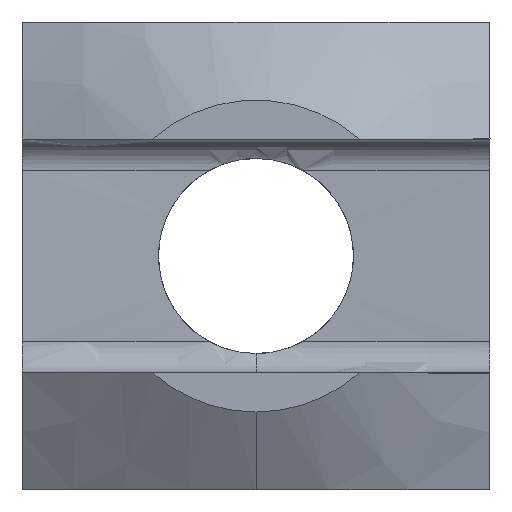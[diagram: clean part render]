
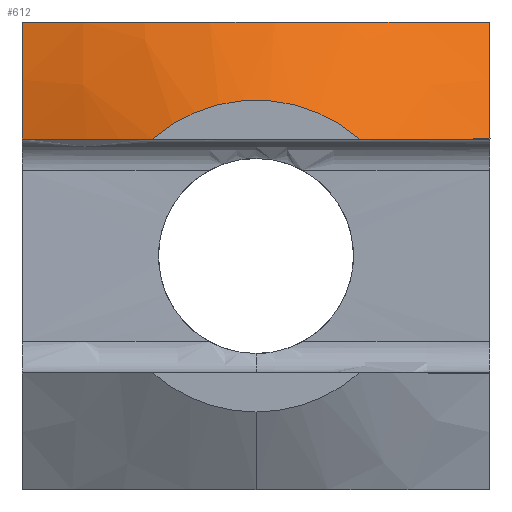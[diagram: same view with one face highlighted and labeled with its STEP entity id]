
A CAD part, left-side view. The second image highlights one B-rep face of the part: STEP entity #612.
In plain terms, the highlighted conical face has half-angle 60 degrees and reference radius 8.512 mm.
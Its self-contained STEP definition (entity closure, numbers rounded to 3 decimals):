
#7 = AXIS2_PLACEMENT_3D ( 'NONE', #701, #42, #627 ) ;
#20 = CARTESIAN_POINT ( 'NONE',  ( -5.436, -6., 3. ) ) ;
#42 = DIRECTION ( 'NONE',  ( 1., 0., 0. ) ) ;
#56 = CARTESIAN_POINT ( 'NONE',  ( -5.136, -4.052, 6. ) ) ;
#60 = CONICAL_SURFACE ( 'NONE', #382, 8.512, 1.047 ) ;
#103 = ORIENTED_EDGE ( 'NONE', *, *, #478, .F. ) ;
#105 = EDGE_CURVE ( 'NONE', #644, #992, #147, .T. ) ;
#108 = CARTESIAN_POINT ( 'NONE',  ( -5.997, 4.9, 3. ) ) ;
#110 = CARTESIAN_POINT ( 'NONE',  ( -6.526, -3.786, 3. ) ) ;
#117 = CARTESIAN_POINT ( 'NONE',  ( -4.41, 6., 6. ) ) ;
#121 = CARTESIAN_POINT ( 'NONE',  ( -4.811, 6., 5.02 ) ) ;
#125 = CARTESIAN_POINT ( 'NONE',  ( -5.549, 2.574, 6. ) ) ;
#137 = DIRECTION ( 'NONE',  ( 0., 0., -1. ) ) ;
#147 = B_SPLINE_CURVE_WITH_KNOTS ( 'NONE', 3,
 ( #1191, #616, #1088, #20 ),
 .UNSPECIFIED., .F., .F.,
 ( 4, 4 ),
 ( 0., 0.003 ),
 .UNSPECIFIED. ) ;
#149 = CARTESIAN_POINT ( 'NONE',  ( -4.794, -5.033, 6. ) ) ;
#170 = VERTEX_POINT ( 'NONE', #907 ) ;
#195 = CARTESIAN_POINT ( 'NONE',  ( -7., 2.646, 3. ) ) ;
#338 = CARTESIAN_POINT ( 'NONE',  ( -5.656, 2.069, 6. ) ) ;
#347 = ORIENTED_EDGE ( 'NONE', *, *, #429, .T. ) ;
#379 = CARTESIAN_POINT ( 'NONE',  ( -7., -2.646, 3. ) ) ;
#382 = AXIS2_PLACEMENT_3D ( 'NONE', #648, #556, #137 ) ;
#429 = EDGE_CURVE ( 'NONE', #170, #880, #837, .T. ) ;
#478 = EDGE_CURVE ( 'NONE', #170, #608, #552, .T. ) ;
#520 = CARTESIAN_POINT ( 'NONE',  ( -5.436, 6., 3. ) ) ;
#522 = CARTESIAN_POINT ( 'NONE',  ( -5.686, -2.048, 6. ) ) ;
#529 = CARTESIAN_POINT ( 'NONE',  ( -4.803, 5.039, 6. ) ) ;
#532 = CARTESIAN_POINT ( 'NONE',  ( -5.171, 6., 4.026 ) ) ;
#552 = B_SPLINE_CURVE_WITH_KNOTS ( 'NONE', 3,
 ( #520, #532, #121, #999 ),
 .UNSPECIFIED., .F., .F.,
 ( 4, 4 ),
 ( 0., 0.003 ),
 .UNSPECIFIED. ) ;
#556 = DIRECTION ( 'NONE',  ( 1., 0., 0. ) ) ;
#557 = B_SPLINE_CURVE_WITH_KNOTS ( 'NONE', 3,
 ( #1081, #1180, #110, #805, #981, #985 ),
 .UNSPECIFIED., .F., .F.,
 ( 4, 2, 4 ),
 ( 0., 0.002, 0.004 ),
 .UNSPECIFIED. ) ;
#608 = VERTEX_POINT ( 'NONE', #736 ) ;
#612 = ADVANCED_FACE ( 'NONE', ( #725 ), #60, .T. ) ;
#616 = CARTESIAN_POINT ( 'NONE',  ( -4.811, -6., 5.02 ) ) ;
#625 = EDGE_LOOP ( 'NONE', ( #347, #855, #681, #657, #977, #103 ) ) ;
#627 = DIRECTION ( 'NONE',  ( 0., 0., -1. ) ) ;
#644 = VERTEX_POINT ( 'NONE', #1216 ) ;
#648 = CARTESIAN_POINT ( 'NONE',  ( -4.395, 0., 0. ) ) ;
#657 = ORIENTED_EDGE ( 'NONE', *, *, #105, .F. ) ;
#681 = ORIENTED_EDGE ( 'NONE', *, *, #991, .T. ) ;
#701 = CARTESIAN_POINT ( 'NONE',  ( -7., 0., 0. ) ) ;
#725 = FACE_OUTER_BOUND ( 'NONE', #625, .T. ) ;
#733 = CARTESIAN_POINT ( 'NONE',  ( -5.291, -3.554, 6. ) ) ;
#736 = CARTESIAN_POINT ( 'NONE',  ( -4.41, 6., 6. ) ) ;
#745 = CARTESIAN_POINT ( 'NONE',  ( -4.41, -6., 6. ) ) ;
#747 = B_SPLINE_CURVE_WITH_KNOTS ( 'NONE', 3,
 ( #117, #529, #829, #125, #338, #1006, #817, #1097, #522, #733, #56, #149, #1132, #745 ),
 .UNSPECIFIED., .F., .F.,
 ( 4, 2, 2, 2, 2, 2, 4 ),
 ( 0., 0.003, 0.005, 0.006, 0.009, 0.011, 0.012 ),
 .UNSPECIFIED. ) ;
#782 = CARTESIAN_POINT ( 'NONE',  ( -6.779, 3.223, 3. ) ) ;
#786 = CARTESIAN_POINT ( 'NONE',  ( -5.72, 5.452, 3. ) ) ;
#805 = CARTESIAN_POINT ( 'NONE',  ( -5.997, -4.9, 3. ) ) ;
#817 = CARTESIAN_POINT ( 'NONE',  ( -5.845, 0.516, 6. ) ) ;
#829 = CARTESIAN_POINT ( 'NONE',  ( -5.156, 4.068, 6. ) ) ;
#837 = B_SPLINE_CURVE_WITH_KNOTS ( 'NONE', 3,
 ( #1260, #786, #108, #1170, #782, #195 ),
 .UNSPECIFIED., .F., .F.,
 ( 4, 2, 4 ),
 ( 0., 0.002, 0.004 ),
 .UNSPECIFIED. ) ;
#845 = VERTEX_POINT ( 'NONE', #379 ) ;
#855 = ORIENTED_EDGE ( 'NONE', *, *, #1036, .T. ) ;
#880 = VERTEX_POINT ( 'NONE', #968 ) ;
#907 = CARTESIAN_POINT ( 'NONE',  ( -5.436, 6., 3. ) ) ;
#932 = CIRCLE ( 'NONE', #7, 4. ) ;
#968 = CARTESIAN_POINT ( 'NONE',  ( -7., 2.646, 3. ) ) ;
#977 = ORIENTED_EDGE ( 'NONE', *, *, #1154, .F. ) ;
#981 = CARTESIAN_POINT ( 'NONE',  ( -5.72, -5.452, 3. ) ) ;
#985 = CARTESIAN_POINT ( 'NONE',  ( -5.436, -6., 3. ) ) ;
#991 = EDGE_CURVE ( 'NONE', #845, #992, #557, .T. ) ;
#992 = VERTEX_POINT ( 'NONE', #1077 ) ;
#999 = CARTESIAN_POINT ( 'NONE',  ( -4.41, 6., 6. ) ) ;
#1006 = CARTESIAN_POINT ( 'NONE',  ( -5.805, 1.041, 6. ) ) ;
#1036 = EDGE_CURVE ( 'NONE', #880, #845, #932, .T. ) ;
#1077 = CARTESIAN_POINT ( 'NONE',  ( -5.436, -6., 3. ) ) ;
#1081 = CARTESIAN_POINT ( 'NONE',  ( -7., -2.646, 3. ) ) ;
#1088 = CARTESIAN_POINT ( 'NONE',  ( -5.171, -6., 4.026 ) ) ;
#1097 = CARTESIAN_POINT ( 'NONE',  ( -5.845, -1.033, 6. ) ) ;
#1132 = CARTESIAN_POINT ( 'NONE',  ( -4.607, -5.518, 6. ) ) ;
#1154 = EDGE_CURVE ( 'NONE', #608, #644, #747, .T. ) ;
#1170 = CARTESIAN_POINT ( 'NONE',  ( -6.526, 3.786, 3. ) ) ;
#1180 = CARTESIAN_POINT ( 'NONE',  ( -6.779, -3.223, 3. ) ) ;
#1191 = CARTESIAN_POINT ( 'NONE',  ( -4.41, -6., 6. ) ) ;
#1216 = CARTESIAN_POINT ( 'NONE',  ( -4.41, -6., 6. ) ) ;
#1260 = CARTESIAN_POINT ( 'NONE',  ( -5.436, 6., 3. ) ) ;
